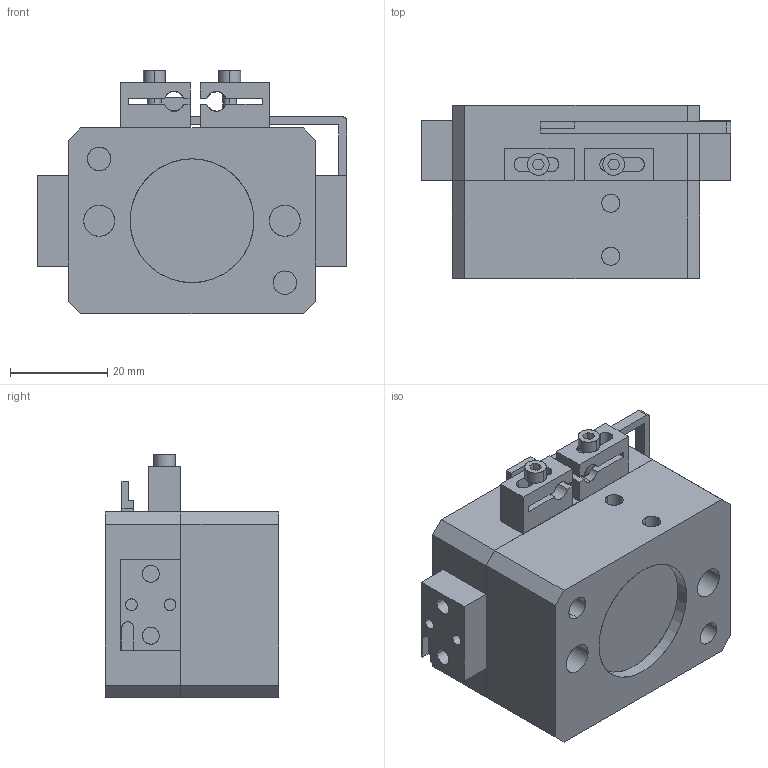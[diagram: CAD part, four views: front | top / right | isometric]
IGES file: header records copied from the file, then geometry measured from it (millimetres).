
Start section: SolidWorks IGES file using analytic representation for surfaces
Global section: file name: C:\Users\jmkuhnes\Pictures\PERSONAL\AGP\AGP-375\agp-375\AGP-375\AGP-375 OPEN in MM.IGS; native system: SolidWorks 2013; preprocessor: SolidWorks 2013; author: jmkuhnes; date: 141031.141411; units: millimetre
Bounding box: 63.5 x 35.61 x 49.91 mm (x, y, z)
Surface area: 26375.9 mm2 (no closed solid volume)
Topology: 0 solids, 0 shells, 375 faces, 4880 edges, 4880 vertices
Faces by surface type: bspline 261, revolution 114
